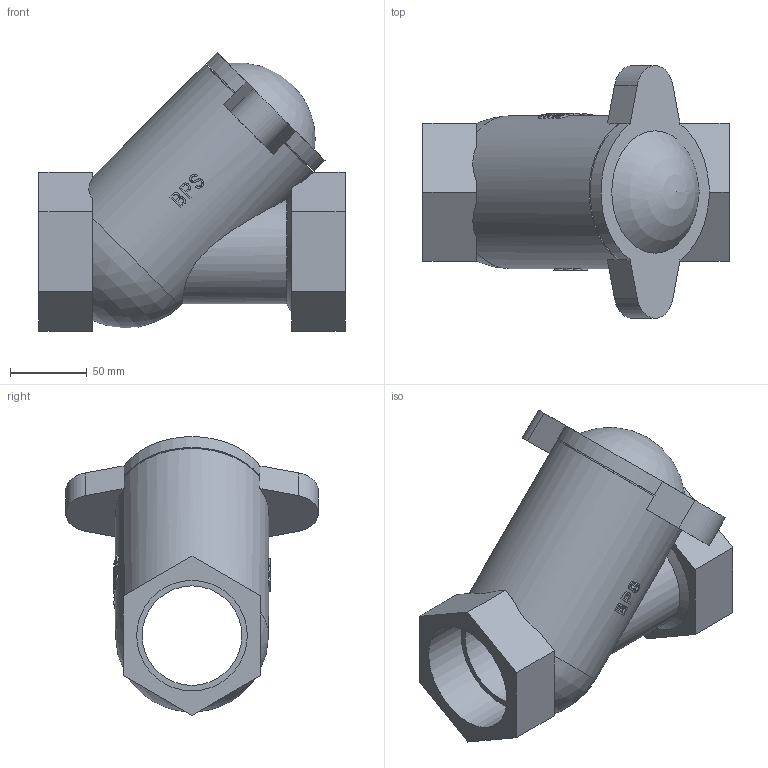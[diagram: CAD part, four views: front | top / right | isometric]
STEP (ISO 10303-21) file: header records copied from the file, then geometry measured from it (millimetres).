
FILE_DESCRIPTION( ( 'Unknown' ), '1' );
FILE_NAME( 'J:/Muud/ROOTSI BPS 3D vidinad/Kuuliga tagasiloogiklapid/STEP formaat/BPS 6540065 ball check valve DN65.stp', 'Unknown', ( 'Unknown' ), ( 'Unknown' ), 'PSStep 10.1', 'Unknown', ' ' );
FILE_SCHEMA( ( 'AUTOMOTIVE_DESIGN { 1 0 10303 214 1 1 1 1 }' ) );
Length unit declared in the file: millimetre
Products named in the file (1): 1
Bounding box: 200 x 165 x 181.84 mm (x, y, z)
Volume: 1245880.2 mm3; surface area: 148060 mm2
Topology: 1 solids, 1 shells, 193 faces, 490 edges, 324 vertices
Faces by surface type: plane 105, bspline 47, cylinder 38, sphere 2, cone 1
Full cylindrical faces by diameter (mm): 65 x1, 68 x1, 72.226 x2, 86 x1, 100 x1
Entity records: 15245 total; most frequent: CARTESIAN_POINT 9922, ORIENTED_EDGE 946, EDGE_CURVE 473, DIRECTION 436, B_SPLINE_CURVE_WITH_KNOTS 370, VERTEX_POINT 319, EDGE_LOOP 238, FACE_OUTER_BOUND 203
